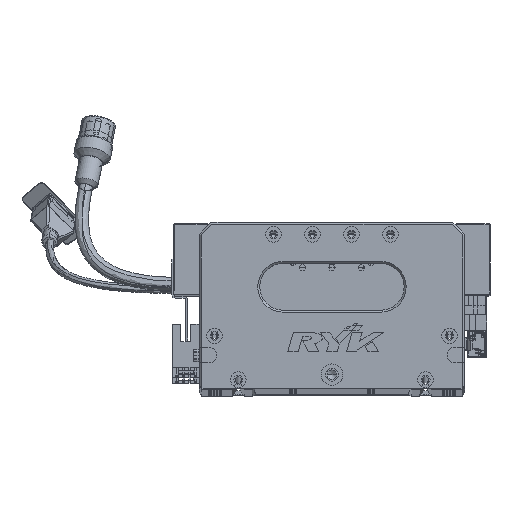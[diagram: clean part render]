
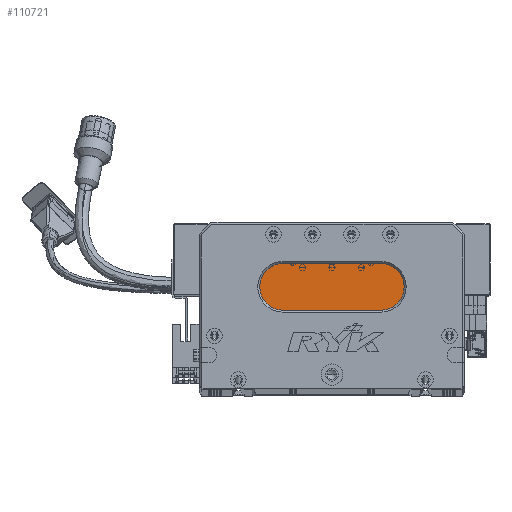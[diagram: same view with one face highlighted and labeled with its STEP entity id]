
A CAD part, top view. The second image highlights one B-rep face of the part: STEP entity #110721.
In plain terms, the highlighted planar face has unit normal (0, 0, 1) as drawn and (0, 0, -1) by its records, which use the part's own axes.
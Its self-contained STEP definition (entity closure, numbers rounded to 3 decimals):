
#2 = VERTEX_POINT ( 'NONE', #37366 ) ;
#9213 = AXIS2_PLACEMENT_3D ( 'NONE', #31876, #50081, #12897 ) ;
#9526 = CARTESIAN_POINT ( 'NONE',  ( 43., 64., 13. ) ) ;
#9746 = AXIS2_PLACEMENT_3D ( 'NONE', #22000, #48165, #47761 ) ;
#12897 = DIRECTION ( 'NONE',  ( -1., 0., 0. ) ) ;
#13696 = DIRECTION ( 'NONE',  ( 0., 0., -1. ) ) ;
#14465 = EDGE_CURVE ( 'NONE', #40991, #81575, #80213, .T. ) ;
#18183 = AXIS2_PLACEMENT_3D ( 'NONE', #112232, #13696, #21663 ) ;
#21663 = DIRECTION ( 'NONE',  ( -1., 0., 0. ) ) ;
#22000 = CARTESIAN_POINT ( 'NONE',  ( 43., 52., 13. ) ) ;
#23781 = EDGE_CURVE ( 'NONE', #68990, #96001, #102357, .T. ) ;
#26271 = DIRECTION ( 'NONE',  ( -1., 0., 0. ) ) ;
#30241 = AXIS2_PLACEMENT_3D ( 'NONE', #80074, #107372, #26271 ) ;
#31876 = CARTESIAN_POINT ( 'NONE',  ( 93., 52., 13. ) ) ;
#31975 = VECTOR ( 'NONE', #35594, 1000. ) ;
#35594 = DIRECTION ( 'NONE',  ( 1., 0., 0. ) ) ;
#37366 = CARTESIAN_POINT ( 'NONE',  ( 43., 40., 13. ) ) ;
#37368 = EDGE_CURVE ( 'NONE', #96001, #40991, #65912, .T. ) ;
#38028 = CIRCLE ( 'NONE', #9746, 12. ) ;
#38469 = VECTOR ( 'NONE', #42988, 1000. ) ;
#40991 = VERTEX_POINT ( 'NONE', #87680 ) ;
#42988 = DIRECTION ( 'NONE',  ( -1., 0., 0. ) ) ;
#47761 = DIRECTION ( 'NONE',  ( -1., 0., 0. ) ) ;
#48165 = DIRECTION ( 'NONE',  ( 0., 0., -1. ) ) ;
#50081 = DIRECTION ( 'NONE',  ( 0., 0., -1. ) ) ;
#50534 = CARTESIAN_POINT ( 'NONE',  ( 31., 52., 13. ) ) ;
#55346 = FACE_OUTER_BOUND ( 'NONE', #104788, .T. ) ;
#60000 = CARTESIAN_POINT ( 'NONE',  ( 93., 40., 13. ) ) ;
#65912 = LINE ( 'NONE', #90486, #31975 ) ;
#68990 = VERTEX_POINT ( 'NONE', #50534 ) ;
#70551 = ORIENTED_EDGE ( 'NONE', *, *, #14465, .T. ) ;
#71777 = PLANE ( 'NONE',  #30241 ) ;
#80074 = CARTESIAN_POINT ( 'NONE',  ( 93., 52., 13. ) ) ;
#80213 = CIRCLE ( 'NONE', #9213, 12. ) ;
#81575 = VERTEX_POINT ( 'NONE', #97172 ) ;
#84539 = EDGE_CURVE ( 'NONE', #81575, #2, #92224, .T. ) ;
#87680 = CARTESIAN_POINT ( 'NONE',  ( 93., 64., 13. ) ) ;
#88759 = ORIENTED_EDGE ( 'NONE', *, *, #90445, .T. ) ;
#88899 = ORIENTED_EDGE ( 'NONE', *, *, #84539, .T. ) ;
#88969 = ORIENTED_EDGE ( 'NONE', *, *, #37368, .T. ) ;
#90445 = EDGE_CURVE ( 'NONE', #2, #68990, #38028, .T. ) ;
#90486 = CARTESIAN_POINT ( 'NONE',  ( 93., 64., 13. ) ) ;
#92224 = LINE ( 'NONE', #60000, #38469 ) ;
#96001 = VERTEX_POINT ( 'NONE', #9526 ) ;
#97172 = CARTESIAN_POINT ( 'NONE',  ( 93., 40., 13. ) ) ;
#102357 = CIRCLE ( 'NONE', #18183, 12. ) ;
#104788 = EDGE_LOOP ( 'NONE', ( #70551, #88899, #88759, #113968, #88969 ) ) ;
#107372 = DIRECTION ( 'NONE',  ( 0., 0., -1. ) ) ;
#110721 = ADVANCED_FACE ( 'NONE', ( #55346 ), #71777, .T. ) ;
#112232 = CARTESIAN_POINT ( 'NONE',  ( 43., 52., 13. ) ) ;
#113968 = ORIENTED_EDGE ( 'NONE', *, *, #23781, .T. ) ;
